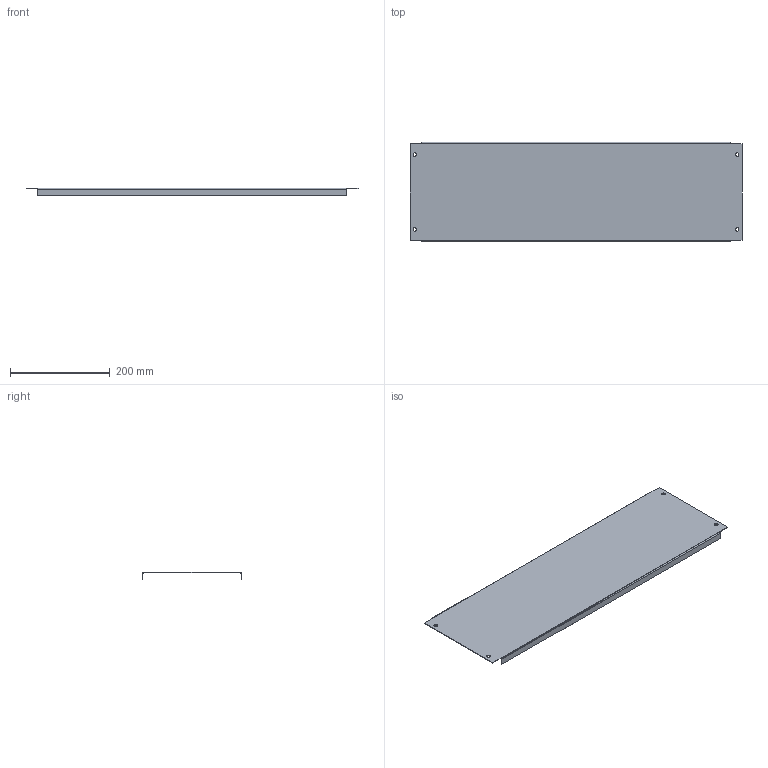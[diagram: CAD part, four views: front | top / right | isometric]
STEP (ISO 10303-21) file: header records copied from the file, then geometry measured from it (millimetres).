
FILE_DESCRIPTION (( 'STEP AP203' ), '1' );
FILE_NAME ('MB 20.70 Ïàíåëü ìîäóëüíàÿ.STEP', '2012-11-21T07:12:04', ( 'system' ), ( '' ), 'SwSTEP 2.0', 'SolidWorks 2012', '' );
FILE_SCHEMA (( 'CONFIG_CONTROL_DESIGN' ));
Length unit declared in the file: millimetre
Products named in the file (1): MB 20.70 Ïàíåëü ìîäóëüíàÿ
Bounding box: 665 x 199 x 15 mm (x, y, z)
Volume: 177705.9 mm3; surface area: 298418.1 mm2
Topology: 1 solids, 1 shells, 34 faces, 80 edges, 48 vertices
Faces by surface type: plane 22, cylinder 12
Entity records: 1053 total; most frequent: DIRECTION 174, CARTESIAN_POINT 163, ORIENTED_EDGE 160, EDGE_CURVE 80, AXIS2_PLACEMENT_3D 59, VECTOR 56, LINE 56, VERTEX_POINT 48
